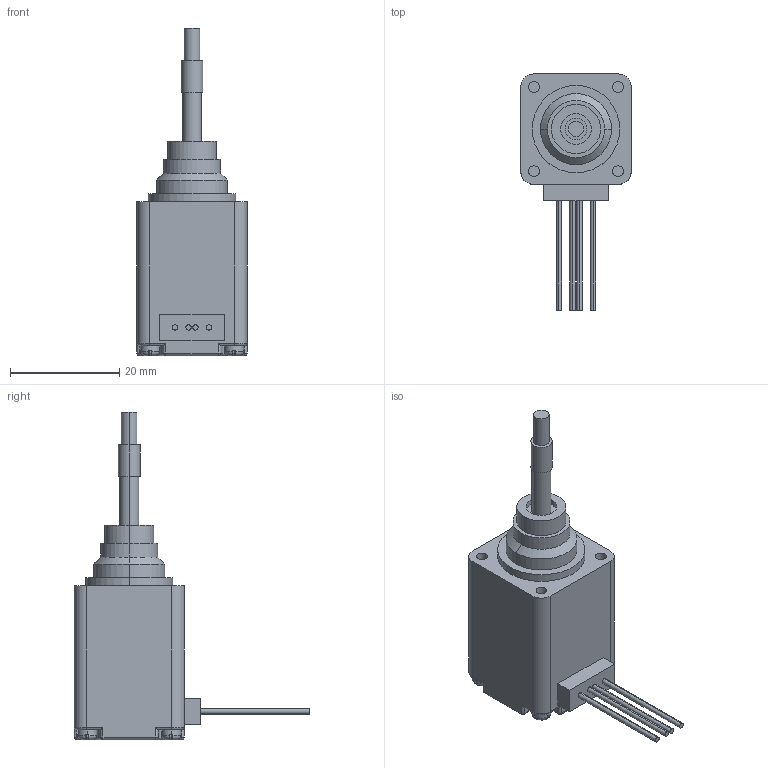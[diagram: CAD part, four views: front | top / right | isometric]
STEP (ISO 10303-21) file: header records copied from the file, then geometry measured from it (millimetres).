
FILE_DESCRIPTION (( 'STEP AP214' ), '1' );
FILE_NAME ('AMETEK-21H4U-2.5-0.354-12.STEP', '2022-02-28T10:45:35', ( '' ), ( '' ), 'SwSTEP 2.0', 'SolidWorks 2021', '' );
FILE_SCHEMA (( 'AUTOMOTIVE_DESIGN' ));
Length unit declared in the file: inch
Products named in the file (1): AMETEK-21H4U-2.5-0.354-12
Bounding box: 20.2 x 43.2 x 59.99 mm (x, y, z)
Volume: 12437.4 mm3; surface area: 4518.5 mm2
Topology: 2 solids, 2 shells, 206 faces, 502 edges, 312 vertices
Faces by surface type: plane 92, cylinder 80, torus 24, sphere 8, cone 2
Entity records: 8907 total; most frequent: CARTESIAN_POINT 1293, DIRECTION 1068, ORIENTED_EDGE 988, EDGE_CURVE 494, AXIS2_PLACEMENT_3D 407, VERTEX_POINT 312, LINE 254, VECTOR 254
